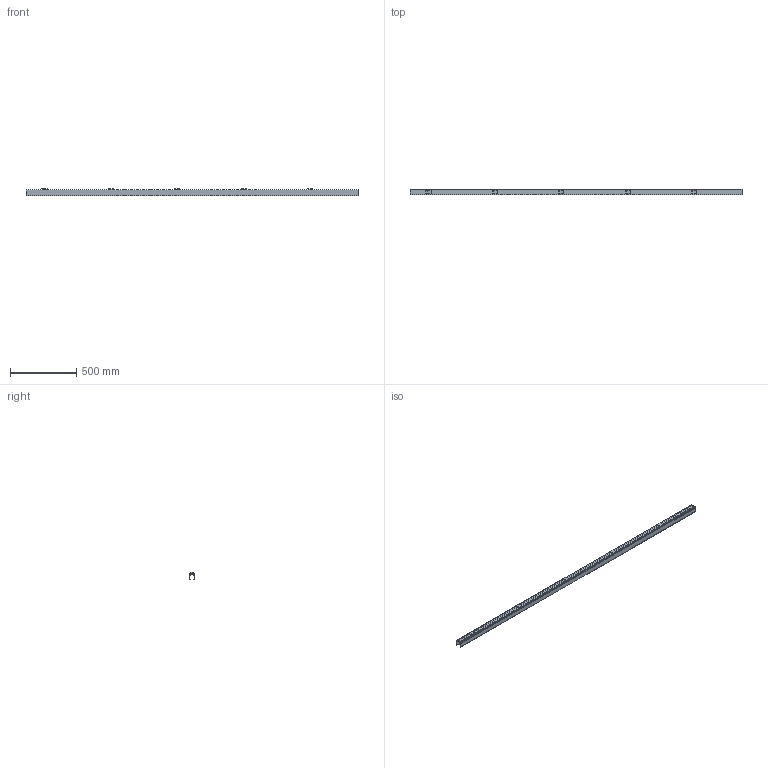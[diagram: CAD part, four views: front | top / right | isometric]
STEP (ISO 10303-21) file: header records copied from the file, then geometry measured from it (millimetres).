
FILE_DESCRIPTION(('STEP AP242'),'1');
FILE_NAME('OPO_65.083.22.stp','2026-03-17T13:41:34',(' '),(' '),'Spatial InterOp 3D',' ',' ');
FILE_SCHEMA(('AP242_MANAGED_MODEL_BASED_3D_ENGINEERING_MIM_LF {1 0 10303 442 1 1 4}'));
Length unit declared in the file: millimetre
Products named in the file (1): 1
Bounding box: 2500 x 42 x 57.5 mm (x, y, z)
Volume: 1227093.7 mm3; surface area: 872381.6 mm2
Topology: 1 solids, 1 shells, 173 faces, 474 edges, 312 vertices
Faces by surface type: plane 153, cylinder 20
Entity records: 6792 total; most frequent: CARTESIAN_POINT 960, ORIENTED_EDGE 948, DIRECTION 862, EDGE_CURVE 474, LINE 434, VECTOR 434, VERTEX_POINT 312, AXIS2_PLACEMENT_3D 214
